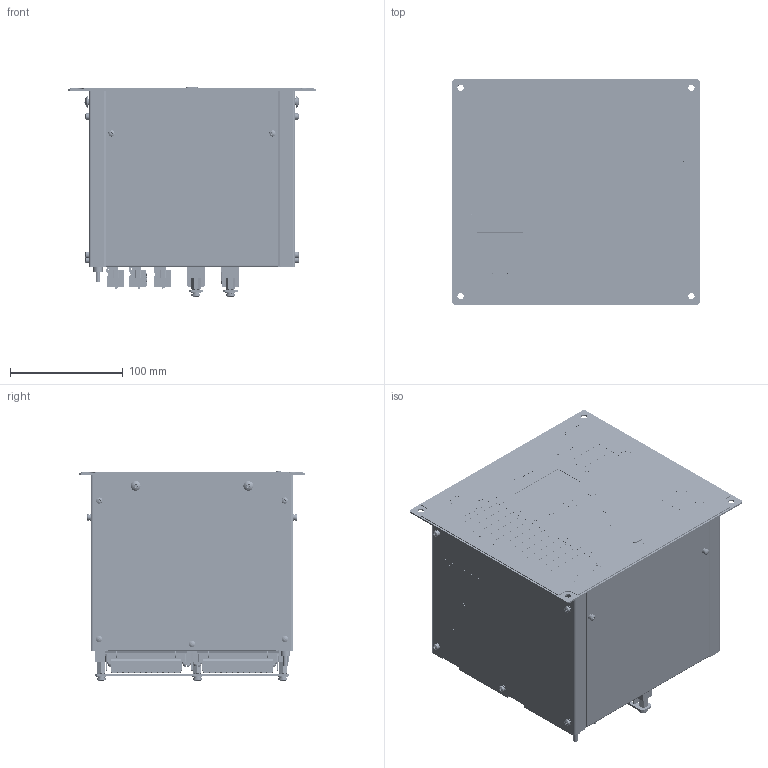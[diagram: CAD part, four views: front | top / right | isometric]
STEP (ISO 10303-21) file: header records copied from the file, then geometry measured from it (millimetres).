
FILE_DESCRIPTION(('STEP AP214'), '1');
FILE_NAME('ﾒﾐﾁﾍ.656122.011-02_52 - ﾊﾈﾒ-ﾐ-ﾀ', '', ('UNSPECIFIED'), ('UNSPECIFIED'), 'C3D Converter', 'C3D Toolkit', '');
FILE_SCHEMA(('AUTOMOTIVE_DESIGN { 1 0 10303 214 3 1 1}'));
Length unit declared in the file: millimetre
Products named in the file (80): ТРБН.656122.001-02_52; ТРБН.741128.001; ТРБН.745222.001; ТРБН.301732.001; ТРБН.745422.001; ТРБН.301261.011-01; ТРБН.745512.011-01; ТРБН.434416.011; ТРБН.754342.001; ТРБН.754342.002; ТРБН.434416.012; ТРБН.754342.002-01; ТРБН.434416.013; ТРБН.754342.002-02; ТРБН.434416.014; ТРБН.754342.001-01; ТРБН.754342.002-05; ТРБН.434416.015; ТРБН.754342.002-06; ТРБН.741134.002; ТРБН.741134.002-01; ТРБН.754312.001; ТРБН.754342.006; 45H-08P; 45H-08P-01; 691317510004; 6913175100xx_PIN; 6913175100xx_INSERT; 2EDGRHM-5.08-24P-14-00A(H); ТРБН.434416.016; ТРБН.754342.002-07; ТРБН.434416.017; ТРБН.754342.002-08; X1; 615008185121_(rev1); 615008185x21_Housing; 615008185x21_Shelding; 615008185x21_YellowLed; 615008185x21_GreenLed; 615008185x21_LedPin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
Assembly tree (153 placements, depth 4):
  ТРБН.656122.001-02_52
    (unnamed)
      ТРБН.741128.001
      ТРБН.745222.001  x2
    ТРБН.301732.001  x2
      ТРБН.745422.001
      (unnamed)
      (unnamed)
    ТРБН.301261.011-01
      ТРБН.745512.011-01
      (unnamed)  x2
      (unnamed)
    (unnamed)  x2
    (unnamed)  x2
    (unnamed)
    (unnamed)
    (unnamed)  x10
    (unnamed)
    (unnamed)  x3
    (unnamed)  x12
    (unnamed)  x2
    (unnamed)  x4
    (unnamed)  x4
    (unnamed)
    (unnamed)  x2
    (unnamed)
    ТРБН.434416.011
      (unnamed)
      ТРБН.754342.001
      ТРБН.754342.002
    ТРБН.434416.012
      (unnamed)
      ТРБН.754342.001
      ТРБН.754342.002-01
    ТРБН.434416.013
      (unnamed)
      ТРБН.754342.001
      ТРБН.754342.002-02
    ТРБН.434416.014
      (unnamed)
      ТРБН.754342.001-01
      ТРБН.754342.002-05
    ТРБН.434416.015
      (unnamed)
      ТРБН.754342.001-01
      ТРБН.754342.002-06
    ТРБН.741134.002
    ТРБН.741134.002-01
    ТРБН.754312.001
    (unnamed)
    (unnamed)
    (unnamed)
    (unnamed)
    ТРБН.754342.006
    (unnamed)
    (unnamed)
    (unnamed)  x10
    (unnamed)  x2
    (unnamed)
    (unnamed)
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Bounding box: 220 x 200 x 187.02 mm (x, y, z)
Volume: 466073.7 mm3; surface area: 674984.7 mm2
Topology: 288 solids, 306 shells, 39558 faces, 111418 edges, 73408 vertices
Faces by surface type: plane 23434, cylinder 12025, extrusion 2847, torus 692, bspline 304, cone 233, sphere 23
Full cylindrical faces by diameter (mm): 0.405 x8, 0.482 x8, 0.804 x1, 1.1 x4, 1.371 x1, 1.6 x8, 1.771 x1, 1.8 x14, 2.459 x6, 2.5 x14, 2.6 x12, 2.75 x12, 3 x14, 3.2 x22, 3.242 x5, 3.3 x60, 3.301 x24, 3.4 x8, 3.5 x86, 3.85 x14, 4 x70, 4.2 x6, 4.22 x6, 4.3 x4, 4.5 x13, 5 x6, 5.6 x20, 5.7 x4, 6 x15, 6.35 x6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
Entity records: 1315465 total; most frequent: CARTESIAN_POINT 266554, ORIENTED_EDGE 175056, DIRECTION 156499, EDGE_CURVE 87528, VECTOR 63819, LINE 60972, VERTEX_POINT 58094, AXIS2_PLACEMENT_3D 46340
